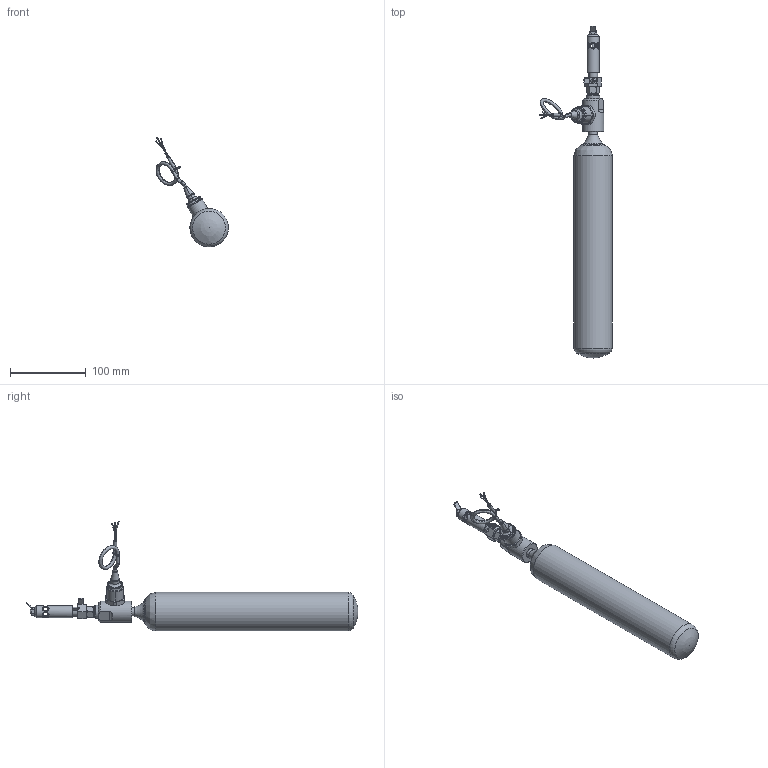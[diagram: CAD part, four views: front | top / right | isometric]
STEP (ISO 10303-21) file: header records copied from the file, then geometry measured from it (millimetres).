
FILE_DESCRIPTION(/* description */ (''),/* implementation_level */ '2;1');
FILE_NAME(/* name */ '40-057-20-31-14 - S-AMFE & R-AMFE - cylinder size 4 and pressure sensor (cable).stp',/* time_stamp */ '2025-03-26T16:19:45+01:00',/* author */ ('ASc'),/* organization */ (''),/* preprocessor_version */ 'ST-DEVELOPER v19.2',/* originating_system */ 'Autodesk Inventor 2023',/* authorisation */ '');
FILE_SCHEMA (('AUTOMOTIVE_DESIGN { 1 0 10303 214 3 1 1 }'));
Length unit declared in the file: millimetre
Products named in the file (1): 40-057-20-31-14_Vereinfachen_1
Bounding box: 96 x 438.7 x 145.09 mm (x, y, z)
Volume: 617087.9 mm3; surface area: 64516 mm2
Topology: 1 solids, 1 shells, 287 faces, 792 edges, 514 vertices
Faces by surface type: bspline 116, plane 106, cylinder 31, cone 29, torus 5
Full cylindrical faces by diameter (mm): 2.9 x1, 5.7 x2, 6.5 x6, 9.4 x1, 11 x1, 11.9 x1, 12 x1, 12.5 x1, 15 x1, 16 x1, 17.5 x1, 28 x1, 50.8 x1
Entity records: 17879 total; most frequent: CARTESIAN_POINT 10897, ORIENTED_EDGE 1580, DIRECTION 1016, EDGE_CURVE 790, VERTEX_POINT 514, AXIS2_PLACEMENT_3D 378, EDGE_LOOP 318, B_SPLINE_CURVE_WITH_KNOTS 294
